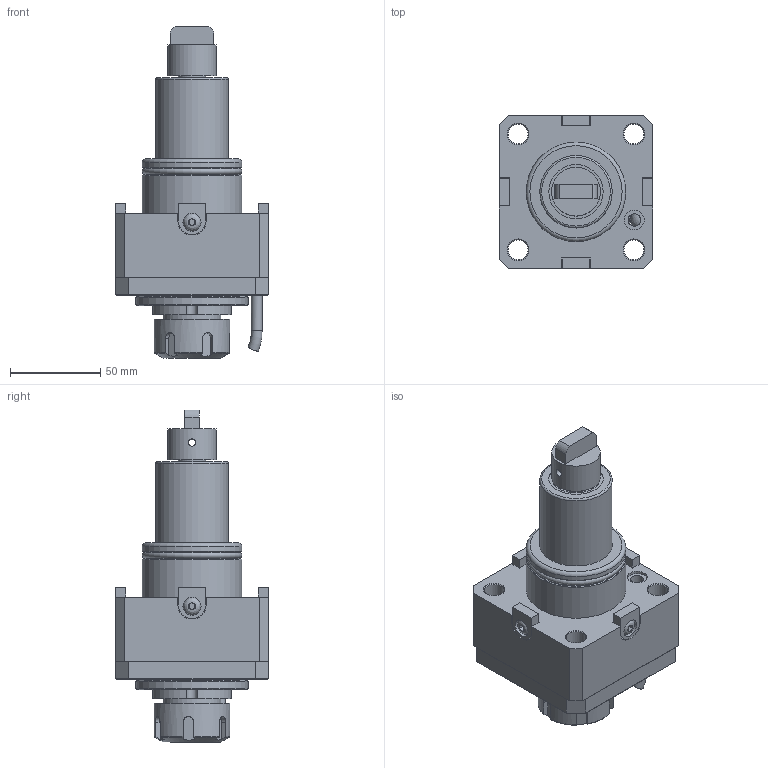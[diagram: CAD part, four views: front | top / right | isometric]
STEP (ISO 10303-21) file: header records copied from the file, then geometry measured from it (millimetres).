
FILE_DESCRIPTION(/* description */ (''),/* implementation_level */ '2;1');
FILE_NAME(/* name */ '',/* time_stamp */ '2026-01-20T10:07:13+03:00',/* author */ ('User'),/* organization */ (''),/* preprocessor_version */ 'ST-DEVELOPER v19.2',/* originating_system */ 'Autodesk Inventor 2024',/* authorisation */ '');
FILE_SCHEMA (('AUTOMOTIVE_DESIGN { 1 0 10303 214 3 1 1 }'));
Length unit declared in the file: millimetre
Products named in the file (3): Осевой приводной 
цанговый блок BMT5
5-0-ER25; Гайка на шпиндель; Осевой приводной 
цанговый блок BMT4
5-0-ER25
Assembly tree (2 placements, depth 2):
  Осевой приводной 
цанговый блок BMT5
5-0-ER25
    Гайка на шпиндель
    Осевой приводной 
цанговый блок BMT4
5-0-ER25
Bounding box: 85 x 85 x 183.5 mm (x, y, z)
Volume: 470105.4 mm3; surface area: 86456.1 mm2
Topology: 6 solids, 6 shells, 335 faces, 821 edges, 541 vertices
Faces by surface type: plane 207, cylinder 90, cone 18, torus 15, bspline 4, sphere 1
Full cylindrical faces by diameter (mm): 4 x2, 4.2 x2, 6 x1, 7 x1, 7.5 x4, 8 x4, 8.887 x1, 9.85 x4, 10 x4, 11 x5, 15 x1, 17 x8, 18 x2, 25 x1, 26 x1, 27 x1, 28 x1, 30 x1, 30.376 x1, 32 x1, 40 x1, 42 x1, 48 x2, 55 x2, 57 x1, 62 x1
Entity records: 10541 total; most frequent: CARTESIAN_POINT 2166, DIRECTION 1702, ORIENTED_EDGE 1640, EDGE_CURVE 820, AXIS2_PLACEMENT_3D 599, VERTEX_POINT 541, LINE 504, VECTOR 504
